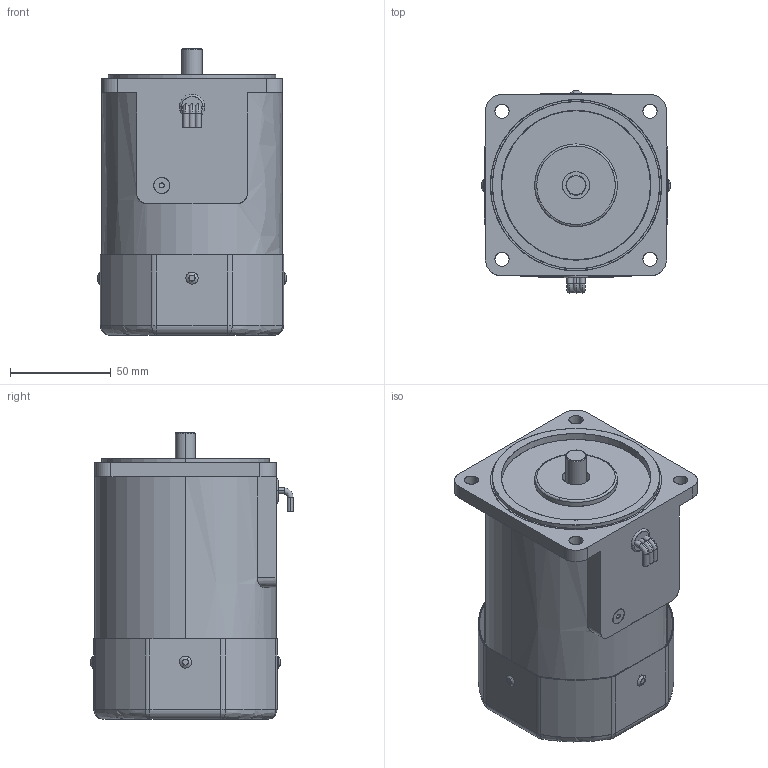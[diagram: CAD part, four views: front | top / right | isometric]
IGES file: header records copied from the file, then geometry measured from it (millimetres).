
Start section: SolidWorks IGES file using analytic representation for surfaces
Bounding box: 94 x 100.5 x 142.5 mm (x, y, z)
Surface area: 91562.4 mm2 (no closed solid volume)
Topology: 0 solids, 0 shells, 139 faces, 2232 edges, 2224 vertices
Faces by surface type: revolution 76, bspline 63
